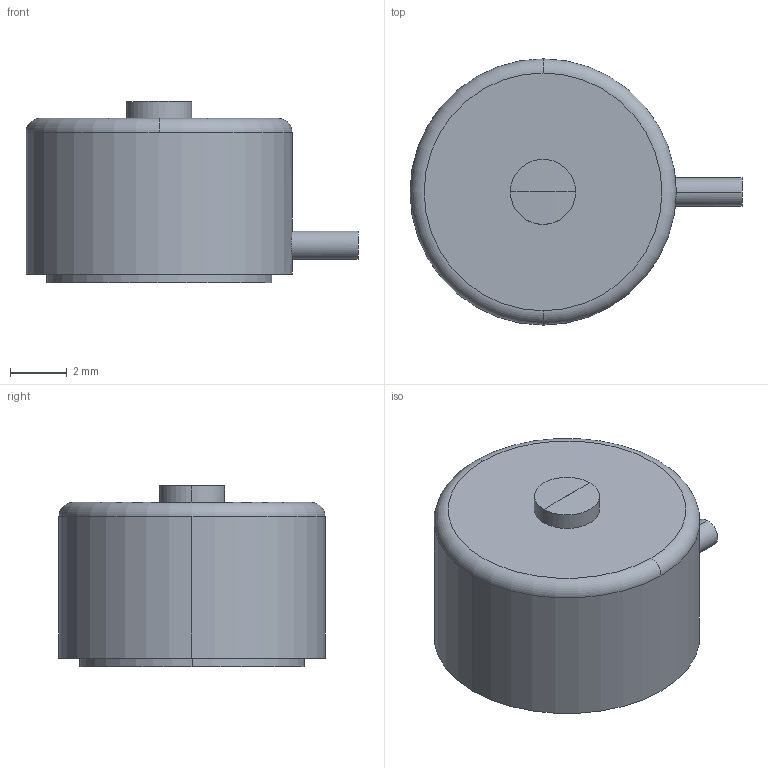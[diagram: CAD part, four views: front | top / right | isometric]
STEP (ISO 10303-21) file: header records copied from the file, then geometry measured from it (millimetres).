
FILE_DESCRIPTION(('STEP AP203'),'1');
FILE_NAME('C:/TPO v2/SharedFS/Outgoing/burster_8414-20-v010_cah7nhhvf9trf1lbqk9f9uzti.stp','2013-08-27T14:44:49',('TraceParts'),('TraceParts S.A.'),'XStep 1.0',' ',' ');
FILE_SCHEMA(('CONFIG_CONTROL_DESIGN'));
Length unit declared in the file: millimetre
Products named in the file (1): 1
Bounding box: 11.73 x 9.4 x 6.4 mm (x, y, z)
Volume: 399.3 mm3; surface area: 313.8 mm2
Topology: 1 solids, 1 shells, 16 faces, 37 edges, 23 vertices
Faces by surface type: cylinder 8, plane 4, sphere 2, torus 2
Entity records: 527 total; most frequent: CARTESIAN_POINT 110, DIRECTION 89, ORIENTED_EDGE 70, AXIS2_PLACEMENT_3D 40, EDGE_CURVE 35, VERTEX_POINT 23, CIRCLE 23, EDGE_LOOP 18
